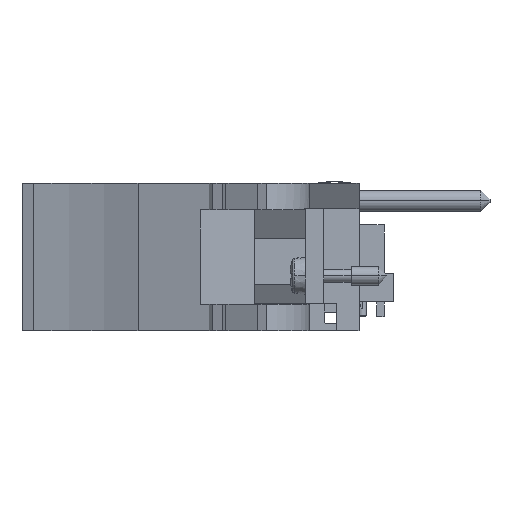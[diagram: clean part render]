
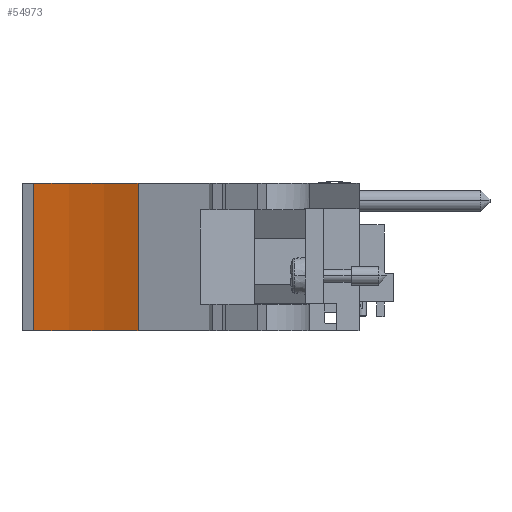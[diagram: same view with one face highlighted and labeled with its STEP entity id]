
A CAD part, front view. The second image highlights one B-rep face of the part: STEP entity #54973.
In plain terms, the highlighted cylindrical face has radius 51.46 mm (diameter 102.919 mm), a partial arc.
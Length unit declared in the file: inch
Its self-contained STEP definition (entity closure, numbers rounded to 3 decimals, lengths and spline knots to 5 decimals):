
#4989=CARTESIAN_POINT('',(-1.97678,-5.95043,0.695));
#4990=DIRECTION('',(0.,0.,1.));
#4991=DIRECTION('',(0.435,0.9,0.));
#4992=AXIS2_PLACEMENT_3D('',#4989,#4990,#4991);
#5334=CARTESIAN_POINT('',(-1.97678,-5.95043,-0.093));
#5335=DIRECTION('',(0.,0.,1.));
#5336=DIRECTION('',(0.435,0.9,0.));
#5337=AXIS2_PLACEMENT_3D('',#5334,#5335,#5336);
#5552=DIRECTION('',(0.,0.,1.));
#5553=VECTOR('',#5552,0.788);
#5554=CARTESIAN_POINT('',(-1.65345,-3.95043,-0.093));
#5555=LINE('',#5554,#5553);
#5560=DIRECTION('',(0.,0.,1.));
#5561=VECTOR('',#5560,0.788);
#5562=CARTESIAN_POINT('',(-1.09548,-4.12619,-0.093));
#5563=LINE('',#5562,#5561);
#48673=CARTESIAN_POINT('',(-1.09548,-4.12619,-0.093));
#48674=CARTESIAN_POINT('',(-1.65345,-3.95043,-0.093));
#48675=VERTEX_POINT('',#48673);
#48676=VERTEX_POINT('',#48674);
#48677=CARTESIAN_POINT('',(-1.09548,-4.12619,0.695));
#48678=CARTESIAN_POINT('',(-1.65345,-3.95043,0.695));
#48679=VERTEX_POINT('',#48677);
#48680=VERTEX_POINT('',#48678);
#54961=CARTESIAN_POINT('',(-1.97678,-5.95043,0.695));
#54962=DIRECTION('',(0.,0.,1.));
#54963=DIRECTION('',(0.,1.,0.));
#54964=AXIS2_PLACEMENT_3D('',#54961,#54962,#54963);
#54965=CYLINDRICAL_SURFACE('',#54964,2.02597);
#54966=ORIENTED_EDGE('',*,*,#54679,.T.);
#54967=ORIENTED_EDGE('',*,*,#54953,.T.);
#54968=ORIENTED_EDGE('',*,*,#54228,.F.);
#54970=ORIENTED_EDGE('',*,*,#54969,.F.);
#54971=EDGE_LOOP('',(#54966,#54967,#54968,#54970));
#54972=FACE_OUTER_BOUND('',#54971,.F.);
#54973=ADVANCED_FACE('',(#54972),#54965,.F.);
#4993=CIRCLE('',#4992,2.02597);
#5338=CIRCLE('',#5337,2.02597);
#54228=EDGE_CURVE('',#48679,#48680,#4993,.T.);
#54679=EDGE_CURVE('',#48675,#48676,#5338,.T.);
#54953=EDGE_CURVE('',#48676,#48680,#5555,.T.);
#54969=EDGE_CURVE('',#48675,#48679,#5563,.T.);
